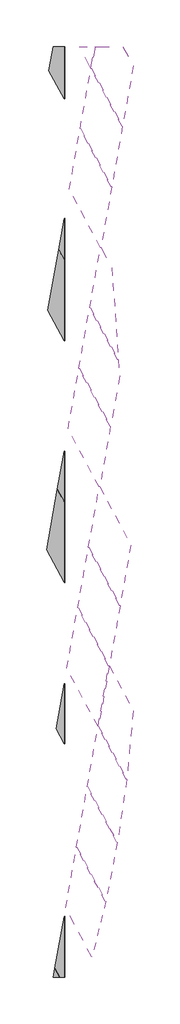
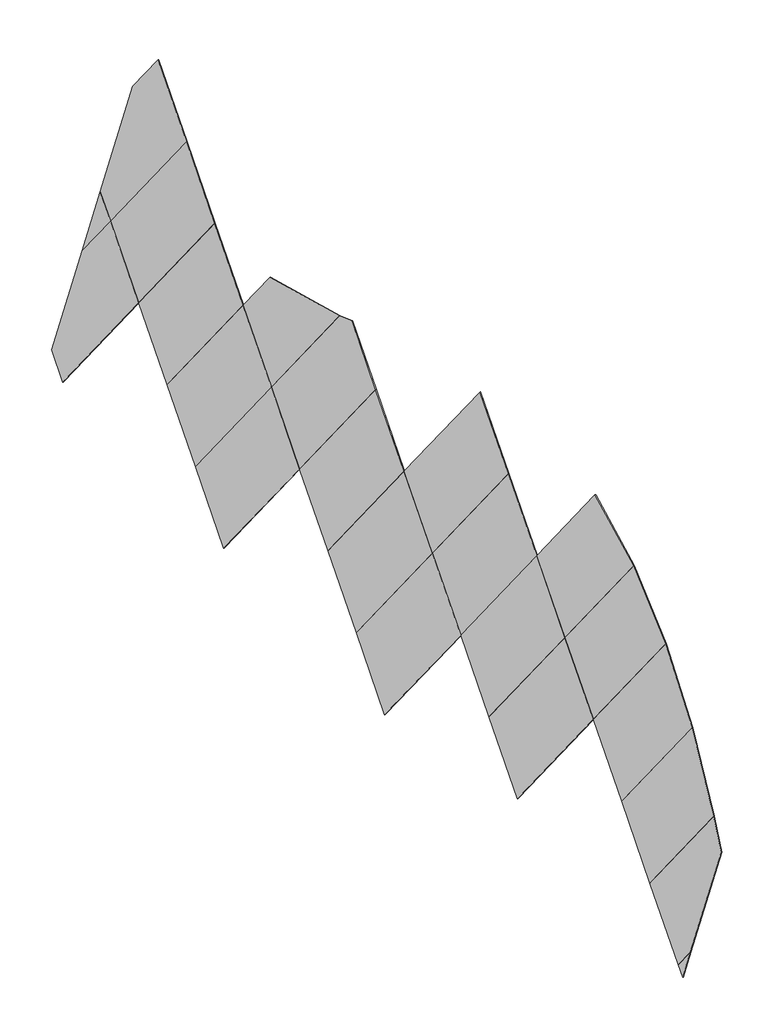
# One storey: 22 plates.
"""IFC4 building model written with IfcOpenShell, lengths in millimetres."""

from ifc_helpers import new_model, si_unit, origin, place, context, project, spatial, transform, mapped, element, save
from components import plate_969d1667, plate_a14206f2, plate_3d709b67, plate_a8a28c8a, plate_5fb26f92, plate_228ab4ba, plate_d2dca126, plate_3853efec, plate_3bd94b8d, plate_a44f30e2, plate_2dcb93ad, plate_7fde9992

model = new_model("IFC4")

# Units and contexts
model_context = context("Model", 3, world=origin())
ifc_project = project(units=[si_unit("LENGTHUNIT", "METRE", prefix="MILLI")], contexts=[model_context])

# Site, building, storey
site = spatial("IfcSite", under=ifc_project)
building = spatial("IfcBuilding", under=site)
storey = spatial("IfcBuildingStorey", under=building, Name="樓層 4", Elevation=10500.0)

# Plates
placement = place(None, origin())
plate_shape = plate_969d1667(model_context)
element("IfcPlate", 1, ObjectType="系統嵌板 : 玻璃 1.0cm", at=placement, inside=storey, context=model_context, shape_type="MappedRepresentation", body=[
    mapped(plate_shape, transform((-8275.6570114, 4663.1570252, 13034.350358), x_axis=(0.15450849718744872, 0.8660254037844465, 0.4755282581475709), y_axis=(0.9510565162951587, 0.0, -0.3090169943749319), z_axis=(-0.2676165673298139, 0.4999999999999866, -0.8236391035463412))),
])
element("IfcPlate", 2, ObjectType="系統嵌板 : 玻璃 1.0cm", at=placement, inside=storey, context=model_context, shape_type="MappedRepresentation", body=[
    mapped(plate_shape, transform((-8043.8942657, 5962.1951309, 13747.6427452), x_axis=(0.15450849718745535, 0.8660254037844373, 0.4755282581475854), y_axis=(0.9510565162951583, 0.0, -0.3090169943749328), z_axis=(-0.2676165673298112, 0.5000000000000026, -0.8236391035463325))),
])
element("IfcPlate", 3, ObjectType="系統嵌板 : 玻璃 1.0cm", at=placement, inside=storey, context=model_context, shape_type="MappedRepresentation", body=[
    mapped(plate_shape, transform((-8301.9038305, -483.9572918, 12953.5709552), x_axis=(0.15450849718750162, 0.8660254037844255, 0.4755282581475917), y_axis=(0.9510565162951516, 0.0, -0.30901699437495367), z_axis=(-0.2676165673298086, 0.5000000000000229, -0.8236391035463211))),
])
element("IfcPlate", 4, ObjectType="系統嵌板 : 玻璃 1.0cm", at=placement, inside=storey, context=model_context, shape_type="MappedRepresentation", body=[
    mapped(plate_shape, transform((-8070.1410847, 815.0808139, 13666.8633424), x_axis=(0.15450849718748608, 0.8660254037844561, 0.4755282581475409), y_axis=(0.9510565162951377, 0.0, -0.30901699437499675), z_axis=(-0.2676165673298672, 0.49999999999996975, -0.8236391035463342))),
])
element("IfcPlate", 5, ObjectType="系統嵌板 : 玻璃 1.0cm", at=placement, inside=storey, context=model_context, shape_type="MappedRepresentation", body=[
    mapped(plate_shape, transform((-7838.3783389, 2114.1189196, 14380.1557296), x_axis=(0.1545084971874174, 0.8660254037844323, 0.4755282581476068), y_axis=(0.951056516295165, 0.0, -0.3090169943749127), z_axis=(-0.2676165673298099, 0.5000000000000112, -0.8236391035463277))),
])
element("IfcPlate", 6, ObjectType="系統嵌板 : 玻璃 1.0cm", at=placement, inside=storey, context=model_context, shape_type="MappedRepresentation", body=[
    mapped(plate_shape, transform((-8096.3879037, -4332.0335031, 13586.0839396), x_axis=(0.15450849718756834, 0.866025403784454, 0.47552825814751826), y_axis=(0.9510565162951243, 0.0, -0.30901699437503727), z_axis=(-0.2676165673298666, 0.4999999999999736, -0.8236391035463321))),
])
element("IfcPlate", 7, ObjectType="系統嵌板 : 玻璃 1.0cm", at=placement, inside=storey, context=model_context, shape_type="MappedRepresentation", body=[
    mapped(plate_shape, transform((-7864.6251579, -3032.9953975, 14299.3763268), x_axis=(0.15450849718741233, 0.8660254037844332, 0.4755282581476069), y_axis=(0.9510565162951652, 0.0, -0.309016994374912), z_axis=(-0.267616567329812, 0.5000000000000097, -0.823639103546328))),
])
element("IfcPlate", 8, ObjectType="系統嵌板 : 玻璃 1.0cm", at=placement, inside=storey, context=model_context, shape_type="MappedRepresentation", body=[
    mapped(plate_shape, transform((-7632.8624121, -1733.9572918, 15012.6687141), x_axis=(0.15450849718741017, 0.8660254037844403, 0.4755282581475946), y_axis=(0.951056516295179, 0.0, -0.30901699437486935), z_axis=(-0.26761656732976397, 0.4999999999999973, -0.8236391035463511))),
])
element("IfcPlate", 9, ObjectType="系統嵌板 : 玻璃 1.0cm", at=placement, inside=storey, context=model_context, shape_type="MappedRepresentation", body=[
    mapped(plate_shape, transform((-7401.0996664, -434.9191861, 15725.9611013), x_axis=(0.154508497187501, 0.8660254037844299, 0.475528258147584), y_axis=(0.9510565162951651, 0.0, -0.3090169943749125), z_axis=(-0.2676165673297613, 0.5000000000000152, -0.823639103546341))),
])
element("IfcPlate", 10, ObjectType="系統嵌板 : 玻璃 1.0cm", at=placement, inside=storey, context=model_context, shape_type="MappedRepresentation", body=[
    mapped(plate_shape, transform((-7812.1315199, 7261.2332366, 14460.9351324), x_axis=(0.15450849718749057, 0.8660254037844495, 0.47552825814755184), y_axis=(0.9510565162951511, 0.0, -0.30901699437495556), z_axis=(-0.2676165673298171, 0.49999999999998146, -0.8236391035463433))),
])
element("IfcPlate", 11, ObjectType="系統嵌板 : 玻璃 1.0cm", at=placement, inside=storey, context=model_context, shape_type="MappedRepresentation", body=[
    mapped(plate_shape, transform((-7580.3687741, 8560.2713423, 15174.2275197), x_axis=(0.15450849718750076, 0.8660254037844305, 0.47552825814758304), y_axis=(0.9510565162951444, 0.0, -0.3090169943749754), z_axis=(-0.26761656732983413, 0.5000000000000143, -0.8236391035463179))),
])
plate_2_shape = plate_a14206f2(model_context)
element("IfcPlate", 12, ObjectType="系統嵌板 : 玻璃 1.0cm", at=placement, inside=storey, context=model_context, shape_type="MappedRepresentation", body=[
    mapped(plate_2_shape, transform((-7606.6155931, 3413.1570252, 15093.4481169), x_axis=(0.15450849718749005, 0.8660254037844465, 0.47552825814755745), y_axis=(0.951056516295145, 0.0, -0.3090169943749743), z_axis=(-0.2676165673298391, 0.4999999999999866, -0.8236391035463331))),
])
plate_3_shape = plate_3d709b67(model_context)
element("IfcPlate", 13, ObjectType="系統嵌板 : 玻璃 1.0cm", at=placement, inside=storey, context=model_context, shape_type="MappedRepresentation", body=[
    mapped(plate_3_shape, transform((-7444.2616906, 4841.8747766, 15593.1220499), x_axis=(0.1545084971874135, 0.8660254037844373, 0.47552825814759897), y_axis=(0.9510565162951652, 0.0, -0.30901699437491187), z_axis=(-0.26761656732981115, 0.5000000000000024, -0.8236391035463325))),
])
plate_4_shape = plate_a8a28c8a(model_context)
element("IfcPlate", 14, ObjectType="系統嵌板 : 玻璃 1.0cm", at=placement, inside=storey, context=model_context, shape_type="MappedRepresentation", body=[
    mapped(plate_4_shape, transform((-8249.4101924, 9810.2713423, 13115.1297608), x_axis=(0.15450849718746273, 0.8660254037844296, 0.4755282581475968), y_axis=(0.951056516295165, 0.0, -0.3090169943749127), z_axis=(-0.26761656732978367, 0.5000000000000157, -0.8236391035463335))),
])
plate_5_shape = plate_5fb26f92(model_context)
element("IfcPlate", 15, ObjectType="系統嵌板 : 玻璃 1.0cm", at=placement, inside=storey, context=model_context, shape_type="MappedRepresentation", body=[
    mapped(plate_5_shape, transform((-8092.0134339, 10692.4855497, 13599.5471734), x_axis=(0.15450849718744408, 0.8660254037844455, 0.4755282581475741), y_axis=(0.9510565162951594, 0.0, -0.30901699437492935), z_axis=(-0.2676165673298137, 0.4999999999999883, -0.8236391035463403))),
])
plate_6_shape = plate_228ab4ba(model_context)
element("IfcPlate", 16, ObjectType="系統嵌板 : 玻璃 1.0cm", at=placement, inside=storey, context=model_context, shape_type="MappedRepresentation", body=[
    mapped(plate_6_shape, transform((-7348.6060283, 9859.309448, 15887.5199069), x_axis=(0.1545084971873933, 0.8660254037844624, 0.4755282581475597), y_axis=(0.9510565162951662, 0.0, -0.30901699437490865), z_axis=(-0.2676165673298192, 0.499999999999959, -0.8236391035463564))),
])
plate_7_shape = plate_d2dca126(model_context)
element("IfcPlate", 17, ObjectType="系統嵌板 : 玻璃 1.0cm", at=placement, inside=storey, context=model_context, shape_type="MappedRepresentation", body=[
    mapped(plate_7_shape, transform((-8820.0681172, -9172.8955071, 11358.8252603), x_axis=(0.15450849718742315, 0.8660254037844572, 0.47552825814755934), y_axis=(0.9510565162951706, 0.0, -0.30901699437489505), z_axis=(-0.26761656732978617, 0.4999999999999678, -0.8236391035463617))),
])
plate_8_shape = plate_3853efec(model_context)
element("IfcPlate", 18, ObjectType="系統嵌板 : 玻璃 1.0cm", at=placement, inside=storey, context=model_context, shape_type="MappedRepresentation", body=[
    mapped(plate_8_shape, transform((-8230.5086321, -9277.6021714, 13173.3027819), x_axis=(0.15450849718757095, 0.8660254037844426, 0.4755282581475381), y_axis=(0.9510565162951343, 0.0, -0.30901699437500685), z_axis=(-0.26761656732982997, 0.4999999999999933, -0.8236391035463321))),
])
plate_9_shape = plate_3bd94b8d(model_context)
element("IfcPlate", 19, ObjectType="系統嵌板 : 玻璃 1.0cm", at=placement, inside=storey, context=model_context, shape_type="MappedRepresentation", body=[
    mapped(plate_9_shape, transform((-7940.0261616, -8088.2727532, 14067.3158991), x_axis=(0.15450849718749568, 0.8660254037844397, 0.4755282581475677), y_axis=(0.9510565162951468, 0.0, -0.30901699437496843), z_axis=(-0.267616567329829, 0.49999999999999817, -0.8236391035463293))),
])
plate_10_shape = plate_a44f30e2(model_context)
element("IfcPlate", 20, ObjectType="系統嵌板 : 玻璃 1.0cm", at=placement, inside=storey, context=model_context, shape_type="MappedRepresentation", body=[
    mapped(plate_10_shape, transform((-7690.0648061, -6823.2359239, 14836.6178479), x_axis=(0.1545084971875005, 0.8660254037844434, 0.4755282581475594), y_axis=(0.9510565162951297, 0.0, -0.30901699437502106), z_axis=(-0.26761656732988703, 0.49999999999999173, -0.8236391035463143))),
])
plate_11_shape = plate_2dcb93ad(model_context)
element("IfcPlate", 21, ObjectType="系統嵌板 : 玻璃 1.0cm", at=placement, inside=storey, context=model_context, shape_type="MappedRepresentation", body=[
    mapped(plate_11_shape, transform((-7458.3020603, -5524.1978182, 15549.9102351), x_axis=(0.1545084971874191, 0.866025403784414, 0.4755282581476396), y_axis=(0.9510565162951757, 0.0, -0.3090169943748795), z_axis=(-0.2676165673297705, 0.5000000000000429, -0.8236391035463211))),
])
plate_12_shape = plate_7fde9992(model_context)
element("IfcPlate", 22, ObjectType="系統嵌板 : 玻璃 1.0cm", at=placement, inside=storey, context=model_context, shape_type="MappedRepresentation", body=[
    mapped(plate_12_shape, transform((-7257.8793918, -4166.6056448, 16166.7477826), x_axis=(0.15450849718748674, 0.8660254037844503, 0.47552825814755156), y_axis=(0.9510565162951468, 0.0, -0.30901699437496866), z_axis=(-0.2676165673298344, 0.49999999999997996, -0.8236391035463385))),
])

save(model, "model.ifc")
